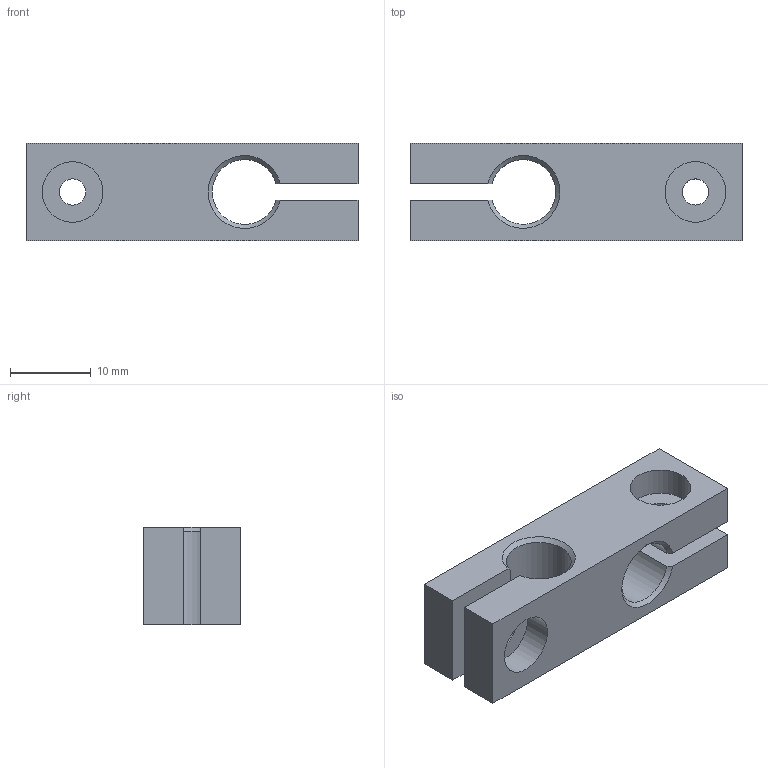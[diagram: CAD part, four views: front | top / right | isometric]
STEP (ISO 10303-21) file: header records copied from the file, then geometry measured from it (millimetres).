
FILE_DESCRIPTION(('FreeCAD Model'),'2;1');
FILE_NAME('Open CASCADE Shape Model','2021-05-04T13:37:38',('Author'),( ''),'Open CASCADE STEP processor 7.5','FreeCAD','Unknown');
FILE_SCHEMA(('AUTOMOTIVE_DESIGN { 1 0 10303 214 1 1 1 1 }'));
Length unit declared in the file: millimetre
Products named in the file (1): cross-clamp-8-8
Bounding box: 41 x 12 x 12 mm (x, y, z)
Volume: 3793 mm3; surface area: 3185.3 mm2
Topology: 1 solids, 1 shells, 24 faces, 62 edges, 42 vertices
Faces by surface type: plane 14, cylinder 8, cone 2
Full cylindrical faces by diameter (mm): 3.242 x4, 7.5 x2
Entity records: 1766 total; most frequent: CARTESIAN_POINT 311, DIRECTION 234, LINE 130, VECTOR 130, ORIENTED_EDGE 124, PCURVE 124, DEFINITIONAL_REPRESENTATION 124, EDGE_CURVE 62
